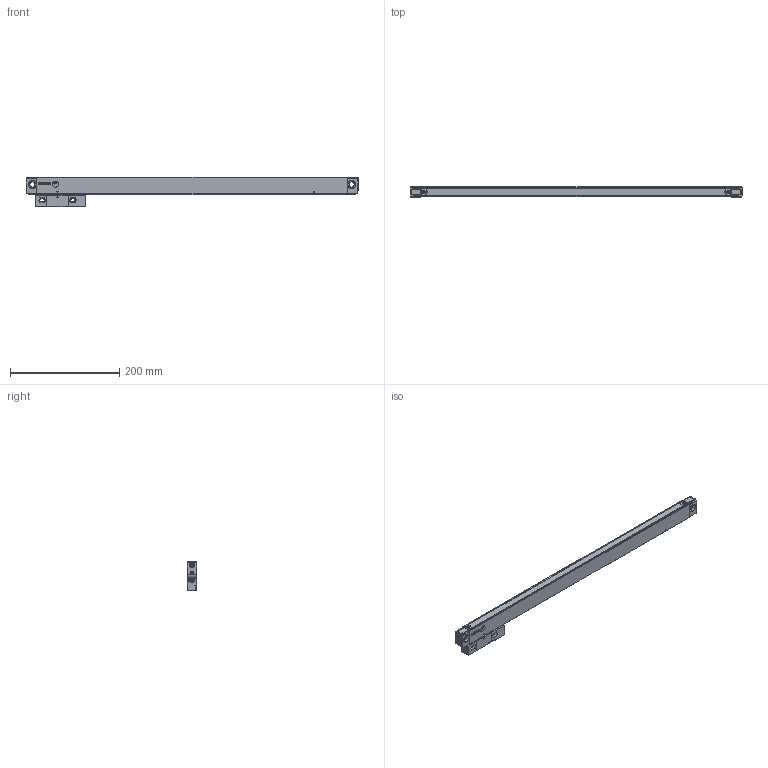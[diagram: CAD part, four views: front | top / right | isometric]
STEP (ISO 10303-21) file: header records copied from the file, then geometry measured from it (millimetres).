
FILE_DESCRIPTION(('Creo Elements/Direct Modeling STEP Export'),'2;1');
FILE_NAME('REGLA_S2-470.stp','2015-05-26T 9:43:57',(''),(''),'Creo Elements/Direct Modeling STEP processor for AP214 (Solid Model)','Creo Elements/Direct Modeling 18.1G 27-Feb-2015 (C) Parametric Technology GmbH','');
FILE_SCHEMA(('AUTOMOTIVE_DESIGN { 1 0 10303 214 1 1 1 1 }'));
Length unit declared in the file: millimetre
Products named in the file (3): CABEZA_RANURADA_REGLA_S; REGLA_S-470
Assembly tree (2 placements, depth 2):
  REGLA_S-470
    REGLA_S-470
    CABEZA_RANURADA_REGLA_S
Bounding box: 608 x 18.3 x 54.3 mm (x, y, z)
Volume: 344704.2 mm3; surface area: 94027.4 mm2
Topology: 2 solids, 19 shells, 827 faces, 2112 edges, 1359 vertices
Faces by surface type: plane 326, cylinder 287, cone 158, bspline 38, sphere 12, torus 6
Entity records: 29328 total; most frequent: CARTESIAN_POINT 6941, ORIENTED_EDGE 4180, DIRECTION 3618, EDGE_CURVE 2090, VERTEX_POINT 1359, AXIS2_PLACEMENT_3D 1252, VECTOR 1114, LINE 1114
